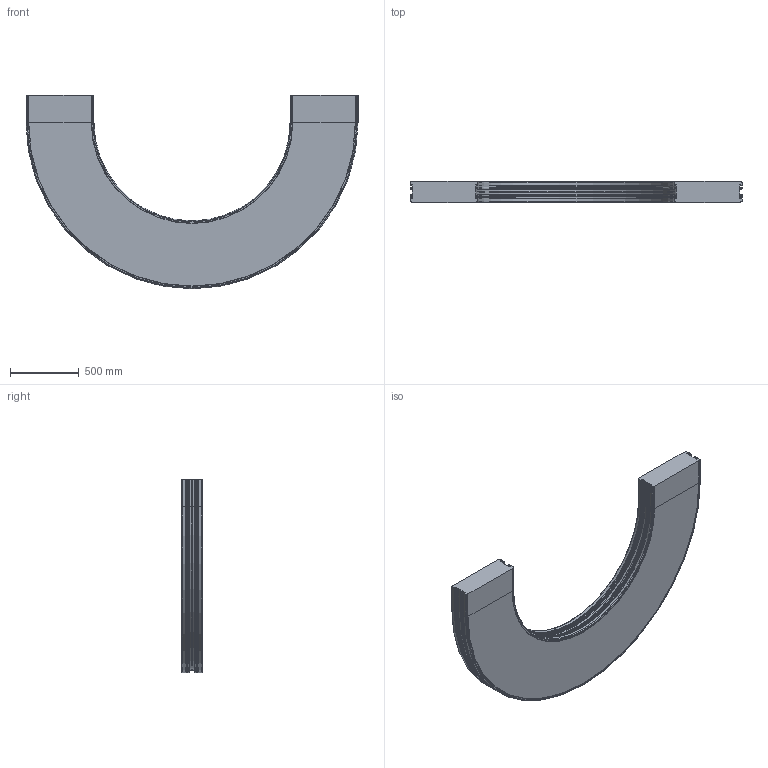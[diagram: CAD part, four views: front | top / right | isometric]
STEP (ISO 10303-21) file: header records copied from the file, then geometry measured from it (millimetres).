
FILE_DESCRIPTION (( 'STEP AP214' ), '1' );
FILE_NAME ('F2-1800-C960-180.STEP', '2016-02-16T13:18:13', ( '' ), ( '' ), 'SwSTEP 2.0', 'SolidWorks 2014', '' );
FILE_SCHEMA (( 'AUTOMOTIVE_DESIGN' ));
Length unit declared in the file: millimetre
Products named in the file (1): F2-1800-C960-180
Bounding box: 2414 x 153.4 x 1407 mm (x, y, z)
Volume: 248424415.5 mm3; surface area: 5902044.6 mm2
Topology: 1 solids, 1 shells, 648 faces, 1510 edges, 864 vertices
Faces by surface type: plane 300, cylinder 244, torus 92, cone 12
Entity records: 18114 total; most frequent: DIRECTION 3398, CARTESIAN_POINT 3023, ORIENTED_EDGE 3020, EDGE_CURVE 1510, AXIS2_PLACEMENT_3D 1239, LINE 920, VECTOR 920, VERTEX_POINT 864
